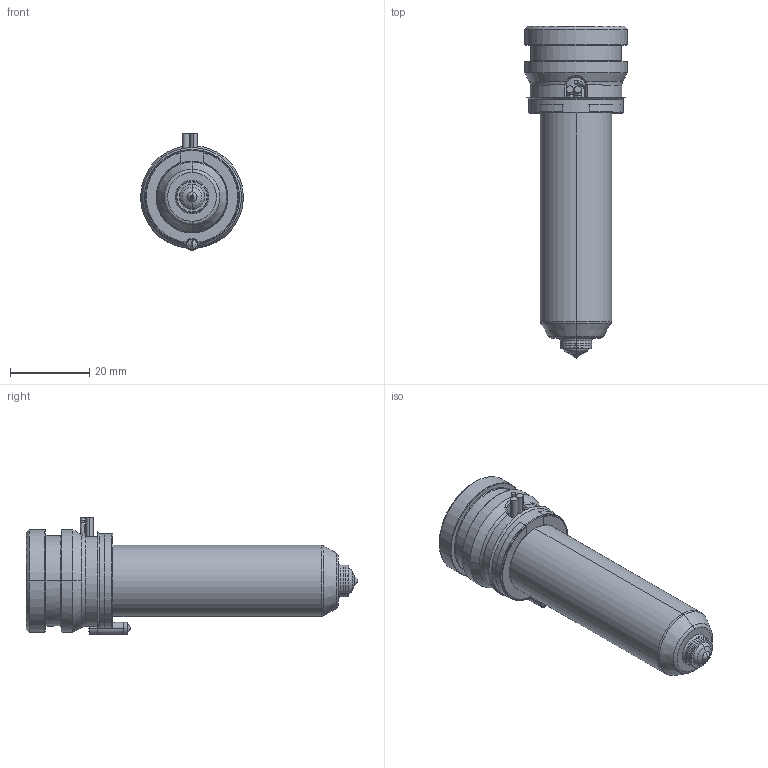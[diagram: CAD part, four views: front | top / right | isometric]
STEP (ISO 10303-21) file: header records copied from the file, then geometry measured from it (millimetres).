
FILE_DESCRIPTION((''),'2;1');
FILE_NAME('TH18066-A-1GLT-PK-JG','2023-12-14T',('umhib'),('Thermoplay S.p.A.'),'PRO/ENGINEER BY PARAMETRIC TECHNOLOGY CORPORATION, 2017170','PRO/ENGINEER BY PARAMETRIC TECHNOLOGY CORPORATION, 2017170','');
FILE_SCHEMA(('CONFIG_CONTROL_DESIGN'));
Length unit declared in the file: millimetre
Products named in the file (1): TH18066-A-1GLT-PK-JG
Bounding box: 26 x 84 x 29.5 mm (x, y, z)
Volume: 18684.8 mm3; surface area: 13835.6 mm2
Topology: 1 solids, 2 shells, 418 faces, 1085 edges, 675 vertices
Faces by surface type: cylinder 162, plane 90, cone 68, torus 62, bspline 24, sphere 10, extrusion 2
Entity records: 18149 total; most frequent: CARTESIAN_POINT 5866, DIRECTION 2189, ORIENTED_EDGE 2146, EDGE_CURVE 1075, AXIS2_PLACEMENT_3D 887, VERTEX_POINT 675, CIRCLE 494, EDGE_LOOP 443
